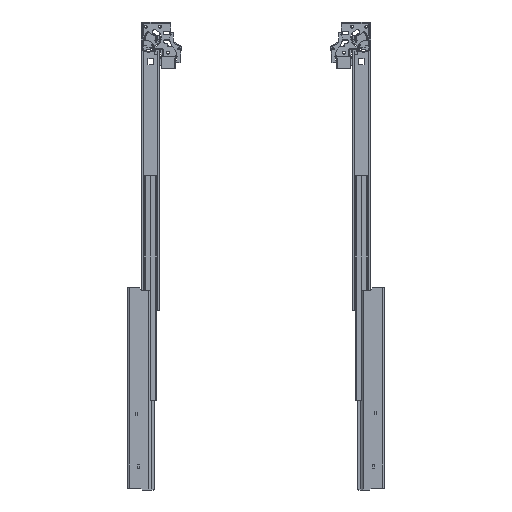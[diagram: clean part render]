
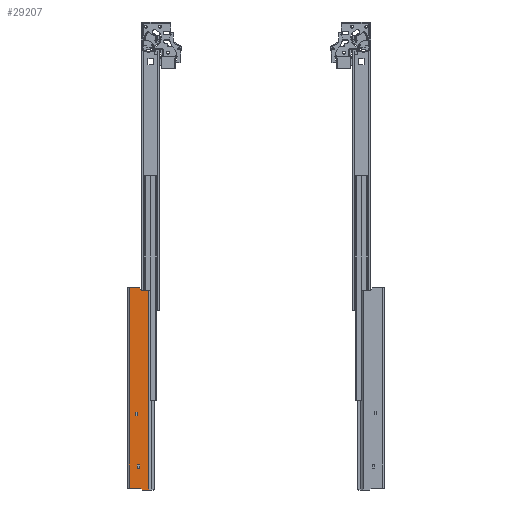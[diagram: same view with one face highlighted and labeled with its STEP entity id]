
A CAD part, front view. The second image highlights one B-rep face of the part: STEP entity #29207.
In plain terms, the highlighted planar face has unit normal (0, -1, 0).
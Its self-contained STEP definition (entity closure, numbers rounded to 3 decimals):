
#803=FACE_BOUND('',#5948,.T.);
#804=FACE_BOUND('',#5949,.T.);
#1919=CIRCLE('',#31121,2.);
#1920=CIRCLE('',#31122,2.);
#4077=FACE_OUTER_BOUND('',#5947,.T.);
#5947=EDGE_LOOP('',(#18647,#18648,#18649,#18650,#18651,#18652,#18653,#18654,
#18655,#18656));
#5948=EDGE_LOOP('',(#18657,#18658,#18659,#18660));
#5949=EDGE_LOOP('',(#18661,#18662,#18663,#18664));
#8113=LINE('',#45108,#10033);
#8117=LINE('',#45116,#10037);
#8120=LINE('',#45122,#10040);
#8123=LINE('',#45127,#10043);
#8125=LINE('',#45133,#10045);
#8129=LINE('',#45141,#10049);
#8132=LINE('',#45147,#10052);
#8135=LINE('',#45152,#10055);
#8137=LINE('',#45158,#10057);
#8152=LINE('',#45206,#10072);
#8160=LINE('',#45226,#10080);
#8161=LINE('',#45230,#10081);
#8162=LINE('',#45232,#10082);
#8163=LINE('',#45234,#10083);
#8164=LINE('',#45238,#10084);
#8165=LINE('',#45241,#10085);
#10033=VECTOR('',#35126,5.);
#10037=VECTOR('',#35132,3.);
#10040=VECTOR('',#35137,5.);
#10043=VECTOR('',#35142,3.);
#10045=VECTOR('',#35148,6.);
#10049=VECTOR('',#35154,3.5);
#10052=VECTOR('',#35159,6.);
#10055=VECTOR('',#35164,3.5);
#10057=VECTOR('',#35170,4.243);
#10072=VECTOR('',#35205,18.);
#10080=VECTOR('',#35225,313.);
#10081=VECTOR('',#35230,9.5);
#10082=VECTOR('',#35231,311.);
#10083=VECTOR('',#35232,9.672);
#10084=VECTOR('',#35235,5.414);
#10085=VECTOR('',#35238,14.172);
#11953=VERTEX_POINT('',#45106);
#11954=VERTEX_POINT('',#45107);
#11957=VERTEX_POINT('',#45115);
#11959=VERTEX_POINT('',#45121);
#11961=VERTEX_POINT('',#45131);
#11962=VERTEX_POINT('',#45132);
#11965=VERTEX_POINT('',#45140);
#11967=VERTEX_POINT('',#45146);
#11969=VERTEX_POINT('',#45156);
#11970=VERTEX_POINT('',#45157);
#11993=VERTEX_POINT('',#45205);
#11999=VERTEX_POINT('',#45225);
#12000=VERTEX_POINT('',#45229);
#12001=VERTEX_POINT('',#45231);
#12002=VERTEX_POINT('',#45233);
#12003=VERTEX_POINT('',#45235);
#12004=VERTEX_POINT('',#45237);
#12005=VERTEX_POINT('',#45239);
#14409=EDGE_CURVE('',#11953,#11954,#8113,.T.);
#14413=EDGE_CURVE('',#11954,#11957,#8117,.T.);
#14416=EDGE_CURVE('',#11957,#11959,#8120,.T.);
#14419=EDGE_CURVE('',#11959,#11953,#8123,.T.);
#14421=EDGE_CURVE('',#11961,#11962,#8125,.T.);
#14425=EDGE_CURVE('',#11962,#11965,#8129,.T.);
#14428=EDGE_CURVE('',#11965,#11967,#8132,.T.);
#14431=EDGE_CURVE('',#11967,#11961,#8135,.T.);
#14433=EDGE_CURVE('',#11969,#11970,#8137,.T.);
#14457=EDGE_CURVE('',#11993,#11969,#8152,.T.);
#14467=EDGE_CURVE('',#11999,#11993,#8160,.T.);
#14469=EDGE_CURVE('',#12000,#11970,#8161,.T.);
#14470=EDGE_CURVE('',#12001,#12000,#8162,.T.);
#14471=EDGE_CURVE('',#12001,#12002,#8163,.T.);
#14472=EDGE_CURVE('',#12003,#12002,#1919,.T.);
#14473=EDGE_CURVE('',#12003,#12004,#8164,.T.);
#14474=EDGE_CURVE('',#12005,#12004,#1920,.T.);
#14475=EDGE_CURVE('',#11999,#12005,#8165,.T.);
#18647=ORIENTED_EDGE('',*,*,#14457,.T.);
#18648=ORIENTED_EDGE('',*,*,#14433,.T.);
#18649=ORIENTED_EDGE('',*,*,#14469,.F.);
#18650=ORIENTED_EDGE('',*,*,#14470,.F.);
#18651=ORIENTED_EDGE('',*,*,#14471,.T.);
#18652=ORIENTED_EDGE('',*,*,#14472,.F.);
#18653=ORIENTED_EDGE('',*,*,#14473,.T.);
#18654=ORIENTED_EDGE('',*,*,#14474,.F.);
#18655=ORIENTED_EDGE('',*,*,#14475,.F.);
#18656=ORIENTED_EDGE('',*,*,#14467,.T.);
#18657=ORIENTED_EDGE('',*,*,#14409,.T.);
#18658=ORIENTED_EDGE('',*,*,#14413,.T.);
#18659=ORIENTED_EDGE('',*,*,#14416,.T.);
#18660=ORIENTED_EDGE('',*,*,#14419,.T.);
#18661=ORIENTED_EDGE('',*,*,#14421,.T.);
#18662=ORIENTED_EDGE('',*,*,#14425,.T.);
#18663=ORIENTED_EDGE('',*,*,#14428,.T.);
#18664=ORIENTED_EDGE('',*,*,#14431,.T.);
#26885=PLANE('',#31120);
#29207=ADVANCED_FACE('',(#4077,#803,#804),#26885,.T.);
#31120=AXIS2_PLACEMENT_3D('',#45228,#35228,#35229);
#31121=AXIS2_PLACEMENT_3D('',#45236,#35233,#35234);
#31122=AXIS2_PLACEMENT_3D('',#45240,#35236,#35237);
#35126=DIRECTION('',(0.,0.,1.));
#35132=DIRECTION('',(1.,0.,0.));
#35137=DIRECTION('',(0.,0.,-1.));
#35142=DIRECTION('',(-1.,0.,0.));
#35148=DIRECTION('',(0.,0.,1.));
#35154=DIRECTION('',(1.,0.,0.));
#35159=DIRECTION('',(0.,0.,-1.));
#35164=DIRECTION('',(-1.,0.,0.));
#35170=DIRECTION('',(0.707,0.,-0.707));
#35205=DIRECTION('',(1.,0.,0.));
#35225=DIRECTION('',(0.,0.,-1.));
#35228=DIRECTION('center_axis',(0.,-1.,0.));
#35229=DIRECTION('ref_axis',(-1.,0.,0.));
#35230=DIRECTION('',(-1.,0.,0.));
#35231=DIRECTION('',(0.,0.,-1.));
#35232=DIRECTION('',(-1.,0.,0.));
#35233=DIRECTION('center_axis',(0.,-1.,0.));
#35234=DIRECTION('ref_axis',(-0.383,0.,-0.924));
#35235=DIRECTION('',(-0.707,0.,0.707));
#35236=DIRECTION('center_axis',(0.,1.,0.));
#35237=DIRECTION('ref_axis',(0.383,0.,0.924));
#35238=DIRECTION('',(1.,0.,0.));
#45106=CARTESIAN_POINT('',(12.,0.,-200.));
#45107=CARTESIAN_POINT('',(12.,0.,-195.));
#45108=CARTESIAN_POINT('',(12.,0.,-97.5));
#45115=CARTESIAN_POINT('',(15.,0.,-195.));
#45116=CARTESIAN_POINT('',(23.75,0.,-195.));
#45121=CARTESIAN_POINT('',(15.,0.,-200.));
#45122=CARTESIAN_POINT('',(15.,0.,-100.));
#45127=CARTESIAN_POINT('',(22.25,0.,-200.));
#45131=CARTESIAN_POINT('',(15.,0.,-283.));
#45132=CARTESIAN_POINT('',(15.,0.,-277.));
#45133=CARTESIAN_POINT('',(15.,0.,-138.5));
#45140=CARTESIAN_POINT('',(18.5,0.,-277.));
#45141=CARTESIAN_POINT('',(25.5,0.,-277.));
#45146=CARTESIAN_POINT('',(18.5,0.,-283.));
#45147=CARTESIAN_POINT('',(18.5,0.,-141.5));
#45152=CARTESIAN_POINT('',(23.75,0.,-283.));
#45156=CARTESIAN_POINT('',(20.,0.,-313.));
#45157=CARTESIAN_POINT('',(23.,0.,-316.));
#45158=CARTESIAN_POINT('',(-55.125,0.,-237.875));
#45205=CARTESIAN_POINT('',(2.,0.,-313.));
#45206=CARTESIAN_POINT('',(16.25,0.,-313.));
#45225=CARTESIAN_POINT('',(2.,0.,0.));
#45226=CARTESIAN_POINT('',(2.,0.,0.));
#45228=CARTESIAN_POINT('Origin',(32.5,0.,0.));
#45229=CARTESIAN_POINT('',(32.5,0.,-316.));
#45230=CARTESIAN_POINT('',(2.,0.,-316.));
#45231=CARTESIAN_POINT('',(32.5,0.,-5.));
#45232=CARTESIAN_POINT('',(32.5,0.,0.));
#45233=CARTESIAN_POINT('',(22.828,0.,-5.));
#45234=CARTESIAN_POINT('',(35.75,0.,-5.));
#45235=CARTESIAN_POINT('',(21.414,0.,-4.414));
#45236=CARTESIAN_POINT('Origin',(22.828,0.,
-3.));
#45237=CARTESIAN_POINT('',(17.586,0.,-0.586));
#45238=CARTESIAN_POINT('',(23.375,0.,-6.375));
#45239=CARTESIAN_POINT('',(16.172,0.,0.));
#45240=CARTESIAN_POINT('Origin',(16.172,0.,
-2.));
#45241=CARTESIAN_POINT('',(2.,0.,0.));
